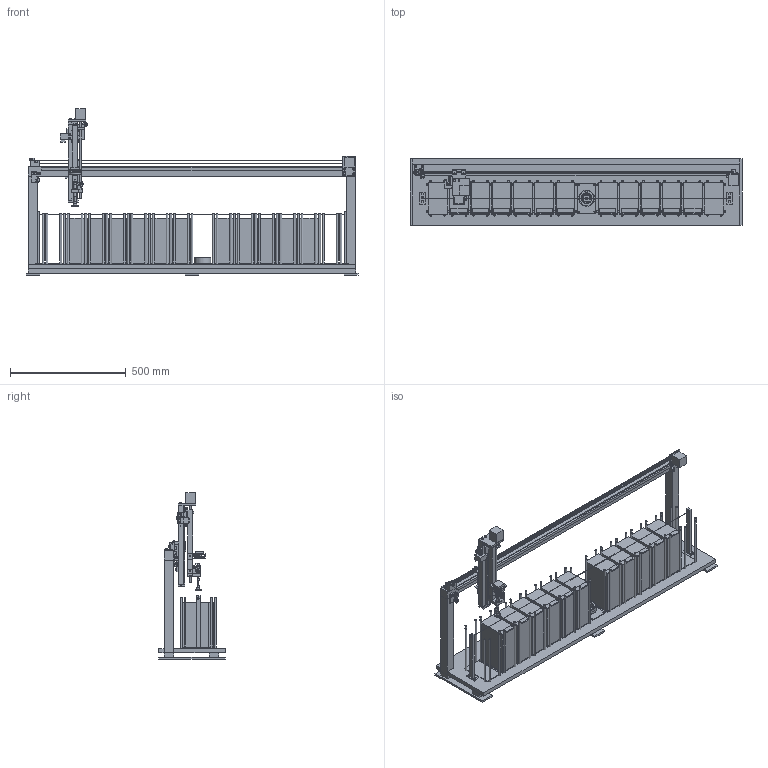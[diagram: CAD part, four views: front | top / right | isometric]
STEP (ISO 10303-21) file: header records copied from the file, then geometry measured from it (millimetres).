
FILE_DESCRIPTION(('Open CASCADE Model'),'2;1');
FILE_NAME('Open CASCADE Shape Model','2026-10-27T22:14:05',('Author'),( 'Open CASCADE'),'Open CASCADE STEP processor 7.9','Open CASCADE 7.9' ,'Unknown');
FILE_SCHEMA(('AUTOMOTIVE_DESIGN { 1 0 10303 214 1 1 1 1 }'));
Length unit declared in the file: millimetre
Products named in the file (240): slabrail_home; base_rail_0; base_rail_1; upright_L; upright_R; foot_L; foot_M; foot_R; x_beam; x_rail; bed_plywood; x_motor; x_motor_mount; x_idler_mount; x_idler_slider; x_bumper_L; x_pulley; x_idler; x_belt_lo; x_belt_hi; fx_motor_m3_-16-16; fx_motor_m3_-16+16; fx_motor_m3_+16-16; fx_motor_m3_+16+16; fx_motor_m5_-23-30; fx_motor_m5_+18-30; fx_motor_m5_-22-10; fx_motor_m5_+18-10; fx_idler_m5_-20; fx_idler_m5_+6; fx_idler_tension; fx_idler_axle; x_switch_mount; x_home_switch; fx_xsw_m2_5; fx_xsw_nut_5; fx_xsw_m2_15; fx_xsw_nut_15; fx_xsw_m5_-48; fx_xsw_m5_-37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
Assembly tree (239 placements, depth 2):
  slabrail_home
    base_rail_0
    base_rail_1
    upright_L
    upright_R
    foot_L
    foot_M
    foot_R
    x_beam
    x_rail
    bed_plywood
    x_motor
    x_motor_mount
    x_idler_mount
    x_idler_slider
    x_bumper_L
    x_pulley
    x_idler
    x_belt_lo
    x_belt_hi
    fx_motor_m3_-16-16
    fx_motor_m3_-16+16
    fx_motor_m3_+16-16
    fx_motor_m3_+16+16
    fx_motor_m5_-23-30
    fx_motor_m5_+18-30
    fx_motor_m5_-22-10
    fx_motor_m5_+18-10
    fx_idler_m5_-20
    fx_idler_m5_+6
    fx_idler_tension
    fx_idler_axle
    x_switch_mount
    x_home_switch
    fx_xsw_m2_5
    fx_xsw_nut_5
    fx_xsw_m2_15
    fx_xsw_nut_15
    fx_xsw_m5_-48
    fx_xsw_m5_-37
    pad_0
    pad_1
    pad_2
    pad_3
    pad_4
    pad_5
    pad_6
    pad_7
    pad_8
    pad_9
    pad_10
    pad_11
    pad_12
    rod_00
    rod_01
    rod_02
    rod_03
    rod_04
    rod_05
    rod_06
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Bounding box: 1436 x 289.5 x 720 mm (x, y, z)
Volume: 42989558.2 mm3; surface area: 4576138.2 mm2
Topology: 241 solids, 241 shells, 1669 faces, 3296 edges, 2195 vertices
Faces by surface type: plane 1337, cylinder 331, cone 1
Full cylindrical faces by diameter (mm): 1.2 x1, 1.8 x4, 2 x2, 2.35 x4, 2.5 x6, 3 x4, 3.2 x4, 3.4 x33, 3.8 x4, 4.5 x5, 4.6 x4, 5.2 x1, 5.3 x2, 5.5 x55, 6 x1, 6.2 x1, 6.4 x4, 6.5 x14, 7 x6, 7.2 x1, 8 x84, 8.083 x1, 8.5 x14, 9 x1, 9.238 x2, 9.5 x12, 10 x7, 10.4 x1, 10.5 x1, 14 x2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
Entity records: 92490 total; most frequent: CARTESIAN_POINT 15021, DIRECTION 14266, LINE 8408, VECTOR 8408, ORIENTED_EDGE 6592, PCURVE 6592, DEFINITIONAL_REPRESENTATION 6592, EDGE_CURVE 3296
